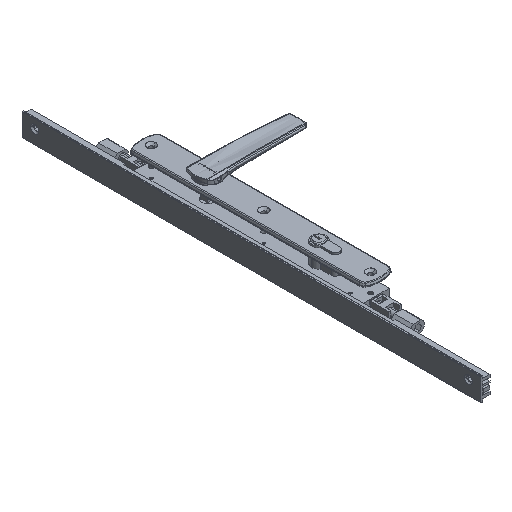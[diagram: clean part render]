
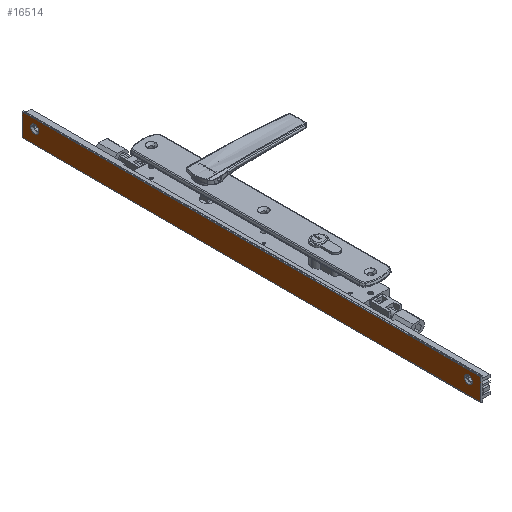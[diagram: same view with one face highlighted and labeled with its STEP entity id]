
A CAD part, isometric view. The second image highlights one B-rep face of the part: STEP entity #16514.
In plain terms, the highlighted planar face has unit normal (-1, 0, 0) as drawn and (0, 1, 0) by its records, which use the part's own axes.
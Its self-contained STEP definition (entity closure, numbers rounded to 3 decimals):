
#834 = CARTESIAN_POINT ( 'NONE',  ( -4.4, 12.4, 0. ) ) ;
#1133 = VECTOR ( 'NONE', #15525, 1000. ) ;
#2643 = AXIS2_PLACEMENT_3D ( 'NONE', #16418, #11149, #26555 ) ;
#2651 = VECTOR ( 'NONE', #13380, 1000. ) ;
#3081 = AXIS2_PLACEMENT_3D ( 'NONE', #22055, #26965, #24276 ) ;
#3276 = DIRECTION ( 'NONE',  ( 0., 0., 1. ) ) ;
#4270 = CARTESIAN_POINT ( 'NONE',  ( 11.8, 12.4, 529. ) ) ;
#4778 = CIRCLE ( 'NONE', #2643, 4.89 ) ;
#5039 = CARTESIAN_POINT ( 'NONE',  ( 20.8, 12.4, 544. ) ) ;
#5227 = CARTESIAN_POINT ( 'NONE',  ( -4.4, 12.4, 0. ) ) ;
#5549 = EDGE_CURVE ( 'NONE', #26916, #8020, #32546, .T. ) ;
#6010 = ORIENTED_EDGE ( 'NONE', *, *, #25857, .T. ) ;
#6107 = EDGE_CURVE ( 'NONE', #9076, #13595, #12644, .T. ) ;
#6907 = DIRECTION ( 'NONE',  ( -1., 0., 0. ) ) ;
#6919 = FACE_OUTER_BOUND ( 'NONE', #11694, .T. ) ;
#7348 = CIRCLE ( 'NONE', #30529, 4.889 ) ;
#8020 = VERTEX_POINT ( 'NONE', #20407 ) ;
#8332 = DIRECTION ( 'NONE',  ( 0., 1., 0. ) ) ;
#9076 = VERTEX_POINT ( 'NONE', #834 ) ;
#9255 = VERTEX_POINT ( 'NONE', #17999 ) ;
#9410 = LINE ( 'NONE', #27511, #9895 ) ;
#9678 = CARTESIAN_POINT ( 'NONE',  ( 22., 12.4, 0. ) ) ;
#9895 = VECTOR ( 'NONE', #6907, 1000. ) ;
#10410 = ORIENTED_EDGE ( 'NONE', *, *, #30299, .F. ) ;
#10631 = CIRCLE ( 'NONE', #27870, 4.889 ) ;
#10650 = EDGE_LOOP ( 'NONE', ( #25675, #27767 ) ) ;
#11149 = DIRECTION ( 'NONE',  ( 0., 1., 0. ) ) ;
#11694 = EDGE_LOOP ( 'NONE', ( #6010, #33015, #12076, #33010 ) ) ;
#12076 = ORIENTED_EDGE ( 'NONE', *, *, #32782, .F. ) ;
#12644 = LINE ( 'NONE', #5227, #1133 ) ;
#13206 = VERTEX_POINT ( 'NONE', #22487 ) ;
#13380 = DIRECTION ( 'NONE',  ( -1., 0., 0. ) ) ;
#13595 = VERTEX_POINT ( 'NONE', #14516 ) ;
#14516 = CARTESIAN_POINT ( 'NONE',  ( -4.4, 12.4, 544. ) ) ;
#14655 = DIRECTION ( 'NONE',  ( 0., 0., 1. ) ) ;
#15525 = DIRECTION ( 'NONE',  ( 0., 0., 1. ) ) ;
#16073 = EDGE_LOOP ( 'NONE', ( #10410, #24755 ) ) ;
#16197 = VECTOR ( 'NONE', #14655, 1000. ) ;
#16418 = CARTESIAN_POINT ( 'NONE',  ( 11.8, 12.4, 15. ) ) ;
#16454 = CARTESIAN_POINT ( 'NONE',  ( 11.8, 12.4, 529. ) ) ;
#16514 = ADVANCED_FACE ( 'NONE', ( #25491, #25336, #6919 ), #22943, .F. ) ;
#16599 = CIRCLE ( 'NONE', #3081, 4.89 ) ;
#16658 = CARTESIAN_POINT ( 'NONE',  ( 11.8, 12.4, 524.111 ) ) ;
#17263 = VERTEX_POINT ( 'NONE', #16658 ) ;
#17999 = CARTESIAN_POINT ( 'NONE',  ( 11.8, 12.4, 10.111 ) ) ;
#18068 = VERTEX_POINT ( 'NONE', #23859 ) ;
#20092 = DIRECTION ( 'NONE',  ( 1., 0., 0. ) ) ;
#20147 = DIRECTION ( 'NONE',  ( 0., 1., 0. ) ) ;
#20407 = CARTESIAN_POINT ( 'NONE',  ( 22., 12.4, 544. ) ) ;
#20421 = DIRECTION ( 'NONE',  ( 0., -1., 0. ) ) ;
#20620 = EDGE_CURVE ( 'NONE', #9255, #13206, #4778, .T. ) ;
#22055 = CARTESIAN_POINT ( 'NONE',  ( 11.8, 12.4, 15. ) ) ;
#22487 = CARTESIAN_POINT ( 'NONE',  ( 11.8, 12.4, 19.89 ) ) ;
#22943 = PLANE ( 'NONE',  #28468 ) ;
#23517 = CARTESIAN_POINT ( 'NONE',  ( 20.8, 12.4, 0. ) ) ;
#23859 = CARTESIAN_POINT ( 'NONE',  ( 11.8, 12.4, 533.889 ) ) ;
#24276 = DIRECTION ( 'NONE',  ( 0., 0., 1. ) ) ;
#24291 = EDGE_CURVE ( 'NONE', #18068, #17263, #10631, .T. ) ;
#24755 = ORIENTED_EDGE ( 'NONE', *, *, #20620, .F. ) ;
#25336 = FACE_BOUND ( 'NONE', #10650, .T. ) ;
#25491 = FACE_BOUND ( 'NONE', #16073, .T. ) ;
#25675 = ORIENTED_EDGE ( 'NONE', *, *, #24291, .F. ) ;
#25857 = EDGE_CURVE ( 'NONE', #26916, #9076, #26554, .T. ) ;
#26554 = LINE ( 'NONE', #23517, #2651 ) ;
#26555 = DIRECTION ( 'NONE',  ( 0., 0., 1. ) ) ;
#26916 = VERTEX_POINT ( 'NONE', #9678 ) ;
#26965 = DIRECTION ( 'NONE',  ( 0., 1., 0. ) ) ;
#27495 = CARTESIAN_POINT ( 'NONE',  ( 22., 12.4, 0. ) ) ;
#27511 = CARTESIAN_POINT ( 'NONE',  ( 20.8, 12.4, 544. ) ) ;
#27578 = DIRECTION ( 'NONE',  ( 0., 0., 1. ) ) ;
#27767 = ORIENTED_EDGE ( 'NONE', *, *, #29726, .F. ) ;
#27870 = AXIS2_PLACEMENT_3D ( 'NONE', #16454, #8332, #3276 ) ;
#28468 = AXIS2_PLACEMENT_3D ( 'NONE', #5039, #20421, #20092 ) ;
#29726 = EDGE_CURVE ( 'NONE', #17263, #18068, #7348, .T. ) ;
#30299 = EDGE_CURVE ( 'NONE', #13206, #9255, #16599, .T. ) ;
#30529 = AXIS2_PLACEMENT_3D ( 'NONE', #4270, #20147, #27578 ) ;
#32546 = LINE ( 'NONE', #27495, #16197 ) ;
#32782 = EDGE_CURVE ( 'NONE', #8020, #13595, #9410, .T. ) ;
#33010 = ORIENTED_EDGE ( 'NONE', *, *, #5549, .F. ) ;
#33015 = ORIENTED_EDGE ( 'NONE', *, *, #6107, .T. ) ;
